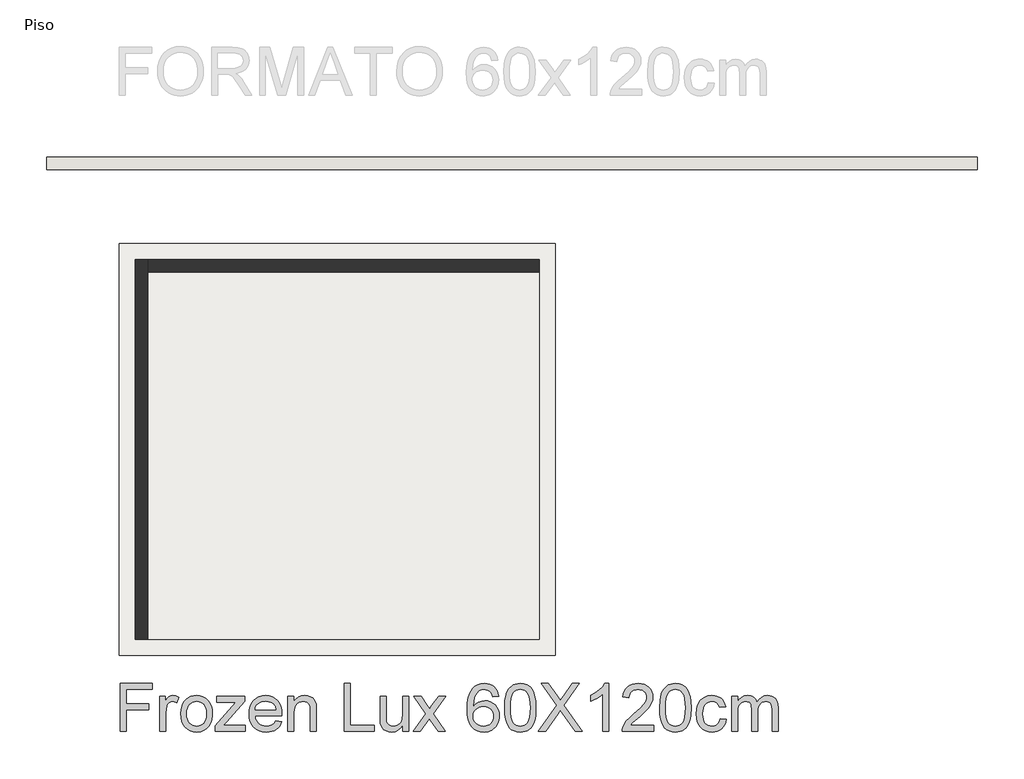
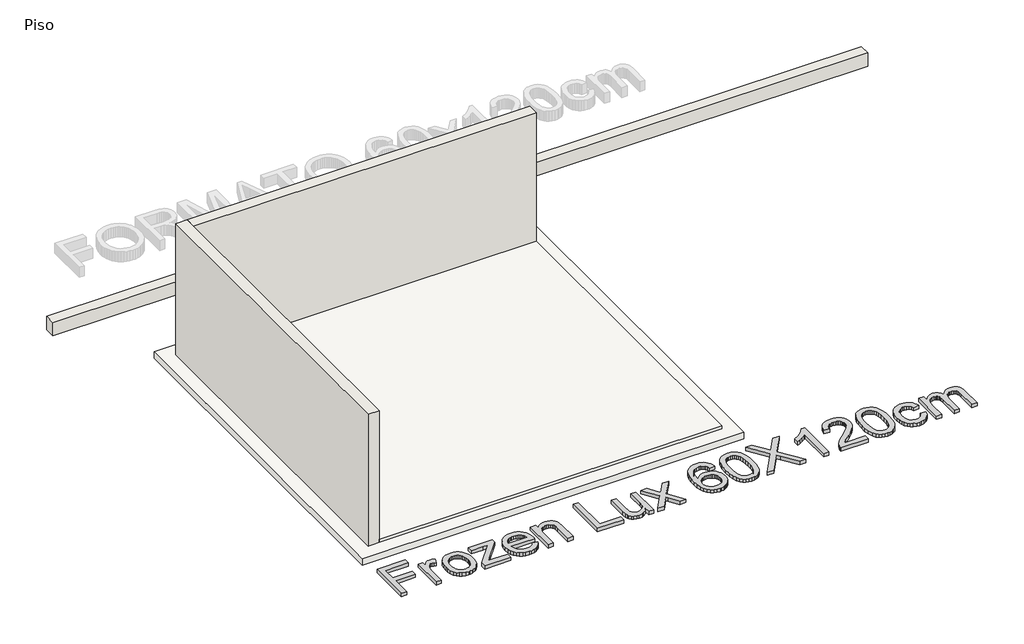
# One storey, part 1 of 2: 3 walls, 2 slabs, 1 proxy.
"""IFC4 building model written with IfcOpenShell, lengths in millimetres."""

from ifc_helpers import new_model, si_unit, frame, origin, origin_with_axes, place, context, project, spatial, polyline, outline, extrude, faceted_brep, element, save

model = new_model("IFC4")

# Units and contexts
model_context = context("Model", 3, world=origin())
ifc_project = project(units=[si_unit("LENGTHUNIT", "METRE", prefix="MILLI")], contexts=[model_context])

# Site, building, storey
site = spatial("IfcSite", under=ifc_project)
building = spatial("IfcBuilding", under=site)
storey = spatial("IfcBuildingStorey", under=building, Name="Piso", Elevation=0.0)

# Proxy
placement = place(None, origin())
element("IfcBuildingElementProxy", 1, Name="600mm Arial", ObjectType="600mm Arial", at=placement, inside=storey, context=model_context, shape_type="SweptSolid", body=[
    extrude(outline(polyline([(92611.4475721, -5298.6050591), (92611.4475721, -4695.8671982), (93016.4120724, -4695.8671982), (93016.4120724, -4771.2094308), (92686.7898047, -4771.2094308), (92686.7898047, -4950.1472332), (92969.323177, -4950.1472332), (92969.323177, -5025.4894658), (92686.7898047, -5025.4894658), (92686.7898047, -5298.6050591), (92611.4475721, -5298.6050591)])), origin_with_axes(), (0.0, 0.0, 1.0), 50.0),
    extrude(outline(polyline([(93110.5898631, -5298.6050591), (93110.5898631, -4855.9694425), (93176.5143167, -4855.9694425), (93176.5143167, -4921.4524376), (93200.8681048, -4883.4870157), (93223.3089065, -4861.1197904), (93245.8232846, -4850.1936951), (93270.3978019, -4846.5516634), (93307.9217654, -4852.3641989), (93346.0343401, -4869.8018055), (93320.8712116, -4937.3449398), (93294.3837079, -4925.756657), (93267.8962043, -4921.893896), (93245.4002203, -4925.6095042), (93225.2954692, -4936.7563286), (93209.0534792, -4954.4882408), (93198.145778, -4977.9591121), (93188.9855163, -5020.0448123), (93185.9320958, -5065.9564853), (93185.9320958, -5298.6050591), (93110.5898631, -5298.6050591)])), origin_with_axes(), (0.0, 0.0, 1.0), 50.0),
    extrude(outline(polyline([(93374.2876773, -5077.2872508), (93378.3619704, -5019.9620389), (93390.5848497, -4970.564684), (93410.9563152, -4929.0951861), (93439.4763668, -4895.5535451), (93468.1895566, -4874.1152219), (93499.8825904, -4858.8021338), (93534.5554685, -4849.614281), (93572.2081907, -4846.5516634), (93613.7742576, -4850.2810671), (93651.358002, -4861.4692783), (93684.9594237, -4880.1162969), (93714.5785228, -4906.222123), (93738.7529684, -4938.9038398), (93756.0204296, -4977.2785304), (93766.3809063, -5021.3461949), (93769.8343985, -5071.1068332), (93768.3076882, -5111.435897), (93763.7275574, -5147.221618), (93756.094006, -5178.4639965), (93745.407034, -5205.1630323), (93731.7999987, -5228.2246349), (93715.4062573, -5248.5547136), (93696.2258098, -5266.1532686), (93674.2586562, -5281.0202997), (93650.360122, -5292.8339103), (93625.3855331, -5301.2722035), (93599.3348893, -5306.3351795), (93572.2081907, -5308.0228381), (93530.0351185, -5304.30723), (93492.1018862, -5293.1604055), (93458.408494, -5274.5823648), (93428.9549418, -5248.5731077), (93405.0380136, -5215.5740928), (93387.9544934, -5176.0267783), (93377.7043813, -5129.9311643), (93374.2876773, -5077.2872508)]), holes=[polyline([(93449.6299099, -5077.140098), (93451.8096107, -5113.6845757), (93458.3487132, -5145.3270258), (93469.2472173, -5172.0674483), (93484.505123, -5193.9058432), (93503.0647697, -5210.8698017), (93523.8684965, -5222.986915), (93546.9163035, -5230.2571829), (93572.2081907, -5232.6806055), (93597.3713192, -5230.2433873), (93620.3271557, -5222.9317327), (93641.0757002, -5210.7456416), (93659.6169527, -5193.685114), (93674.8748585, -5171.6305884), (93685.7733626, -5144.4625031), (93692.3124651, -5112.180858), (93694.4921659, -5074.7856532), (93692.2986695, -5039.4000038), (93685.7181803, -5008.5852882), (93674.7506983, -4982.3415063), (93659.3962236, -4960.6686583), (93640.7859931, -4943.7046998), (93620.0512442, -4931.5875866), (93597.1919767, -4924.3173186), (93572.2081907, -4921.893896), (93546.9163035, -4924.3081216), (93523.8684965, -4931.5507984), (93503.0647697, -4943.6219263), (93484.505123, -4960.5215055), (93469.2472173, -4982.2955211), (93458.3487132, -5008.9899584), (93451.8096107, -5040.6048173), (93449.6299099, -5077.140098)])]), origin_with_axes(), (0.0, 0.0, 1.0), 50.0),
    extrude(outline(polyline([(93807.5055148, -5298.6050591), (93807.5055148, -5227.6774104), (94067.524509, -4931.3116751), (93990.5635956, -4931.3116751), (93826.341073, -4931.3116751), (93826.341073, -4855.9694425), (94174.7988988, -4855.9694425), (94174.7988988, -4919.9809096), (93944.2104642, -5182.9429598), (93908.8937927, -5223.2628265), (93996.0082491, -5223.2628265), (94184.2166779, -5223.2628265), (94184.2166779, -5298.6050591), (93807.5055148, -5298.6050591)])), origin_with_axes(), (0.0, 0.0, 1.0), 50.0),
    extrude(outline(polyline([(94569.4627032, -5166.756152), (94643.3334079, -5176.1739311), (94632.0072409, -5205.7608405), (94616.7171455, -5231.8344769), (94597.4631216, -5254.3948403), (94574.2451692, -5273.4419306), (94547.3024115, -5288.5710776), (94516.873972, -5299.3776113), (94482.9598506, -5305.8615314), (94445.5600472, -5308.0228381), (94398.8114427, -5304.2934344), (94357.1580038, -5293.1052232), (94320.5997305, -5274.4582046), (94289.1366229, -5248.3523785), (94263.8355387, -5215.5143119), (94245.7633357, -5176.6705718), (94234.9200139, -5131.821158), (94231.3055733, -5080.9660707), (94234.9568021, -5028.3865366), (94245.9104885, -4982.0426022), (94264.1666325, -4941.9342677), (94289.7252341, -4908.061533), (94321.1055683, -4881.150965), (94356.82691, -4861.9291308), (94396.8892593, -4850.3960302), (94441.2926161, -4846.5516634), (94484.2658317, -4850.3868332), (94523.1279659, -4861.8923426), (94557.8790189, -4881.0681916), (94588.5189906, -4907.9143802), (94613.5303677, -4941.7135385), (94631.3956371, -4981.7482966), (94642.1147987, -5028.0186546), (94645.6878526, -5080.5246123), (94645.2463942, -5100.8316985), (94306.6478059, -5100.8316985), (94311.011806, -5130.8968545), (94319.6892226, -5157.2280083), (94332.6800556, -5179.8251599), (94349.9843049, -5198.6883092), (94370.6454775, -5213.5599388), (94393.70708, -5224.1825314), (94419.1691126, -5230.556087), (94447.0315752, -5232.6806055), (94487.1307127, -5228.7442682), (94520.9022799, -5216.9352561), (94548.3462767, -5196.5178054), (94569.4627032, -5166.756152)]), holes=[polyline([(94306.6478059, -5025.4894658), (94570.34562, -5025.4894658), (94560.1552887, -4985.684634), (94551.3905002, -4970.0312551), (94540.1792964, -4957.2105675), (94519.633087, -4941.7595237), (94496.2541862, -4930.7230639), (94470.042594, -4924.101188), (94440.9983105, -4921.893896), (94414.5062083, -4923.6551311), (94390.2122011, -4928.9388362), (94368.1162887, -4937.7450115), (94348.2184713, -4950.0736568), (94331.5212273, -4965.3545552), (94319.027035, -4983.0174895), (94310.7358945, -5003.0624597), (94306.6478059, -5025.4894658)])]), origin_with_axes(), (0.0, 0.0, 1.0), 50.0),
    extrude(outline(polyline([(94721.0300852, -5298.6050591), (94721.0300852, -4855.9694425), (94796.3723178, -4855.9694425), (94796.3723178, -4917.7736177), (94822.5471218, -4886.6140127), (94853.9826383, -4864.357152), (94890.6788673, -4851.0030355), (94932.6358089, -4846.5516634), (94969.7734963, -4850.1385128), (95003.7841867, -4860.8990612), (95032.1478886, -4877.4905392), (95052.3446101, -4898.5701775), (95066.0482144, -4924.0827939), (95074.9325646, -4953.973206), (95078.9056901, -5026.813841), (95078.9056901, -5298.6050591), (95003.5634575, -5298.6050591), (95003.5634575, -5036.9673841), (95001.3929538, -4998.0086808), (94994.8814424, -4970.3071666), (94982.8700953, -4950.4599329), (94964.200084, -4935.0640714), (94940.2693603, -4925.1864399), (94912.4758755, -4921.893896), (94889.5982139, -4923.742503), (94868.3484302, -4929.2883241), (94848.7265243, -4938.5313592), (94830.7324962, -4951.4716084), (94815.6999182, -4969.5805996), (94804.9623624, -4994.3298609), (94798.519829, -5025.7193921), (94796.3723178, -5063.7491933), (94796.3723178, -5298.6050591), (94721.0300852, -5298.6050591)])), origin_with_axes(), (0.0, 0.0, 1.0), 50.0),
    extrude(outline(polyline([(95427.363516, -5298.6050591), (95427.363516, -4695.8671982), (95502.7057486, -4695.8671982), (95502.7057486, -5223.2628265), (95804.074679, -5223.2628265), (95804.074679, -5298.6050591), (95427.363516, -5298.6050591)])), origin_with_axes(), (0.0, 0.0, 1.0), 50.0),
    extrude(outline(polyline([(96161.9502839, -5298.6050591), (96161.9502839, -5222.5270625), (96134.6902281, -5259.9314643), (96102.9420119, -5286.6488942), (96066.7056354, -5302.6793522), (96025.9810985, -5308.0228381), (95989.2848695, -5304.2704418), (95955.1270263, -5293.0132527), (95926.4690188, -5276.090681), (95906.2722973, -5255.3421364), (95892.6790576, -5230.1422198), (95883.8314956, -5199.8655316), (95879.4169116, -5129.8207997), (95879.4169116, -4855.9694425), (95954.7591443, -4855.9694425), (95954.7591443, -5094.3569753), (95955.8995784, -5142.0344819), (95959.320881, -5171.1707359), (95970.3021586, -5196.7937169), (95989.1193226, -5216.2730685), (96014.5215744, -5228.5787213), (96045.2581151, -5232.6806055), (96077.7604893, -5228.4867508), (96108.1659362, -5215.9051865), (96133.2370942, -5196.0947411), (96149.7366017, -5170.2142427), (96158.8968634, -5134.7688125), (96161.9502839, -5086.2635714), (96161.9502839, -4855.9694425), (96237.2925166, -4855.9694425), (96237.2925166, -5298.6050591), (96161.9502839, -5298.6050591)])), origin_with_axes(), (0.0, 0.0, 1.0), 50.0),
    extrude(outline(polyline([(96293.799191, -5298.6050591), (96454.7843521, -5076.1100284), (96303.2169701, -4855.9694425), (96393.8630937, -4855.9694425), (96466.9980343, -4961.9194571), (96501.1374835, -5011.9514084), (96530.7151959, -4971.0429306), (96614.0036796, -4855.9694425), (96704.6498032, -4855.9694425), (96545.4304757, -5076.1100284), (96698.7636913, -5298.6050591), (96608.1175677, -5298.6050591), (96515.8527633, -5164.8431656), (96498.9301915, -5140.4158011), (96384.4453146, -5298.6050591), (96293.799191, -5298.6050591)])), origin_with_axes(), (0.0, 0.0, 1.0), 50.0),
    extrude(outline(polyline([(97367.4260057, -4855.9694425), (97292.0837731, -4865.3872215), (97279.9436673, -4828.047199), (97263.5361303, -4802.5529768), (97247.3401255, -4788.8401754), (97229.3598929, -4779.0453173), (97209.5954328, -4773.1684024), (97188.0467449, -4771.2094308), (97153.0243789, -4775.7711675), (97120.0621522, -4789.4563777), (97091.7536327, -4818.2799321), (97068.6322493, -4857.9560052), (97059.5961477, -4883.261688), (97053.0156586, -4914.0764036), (97047.2215171, -4992.2329335), (97077.443023, -4956.9714442), (97113.6610055, -4932.1210155), (97153.8521134, -4917.3873416), (97195.992996, -4912.4761169), (97232.1925843, -4915.8330401), (97265.5962695, -4925.9038098), (97296.2040515, -4942.6884258), (97324.0159303, -4966.1868882), (97347.1281167, -4995.0012455), (97363.6368212, -5027.733546), (97373.5420439, -5064.3837898), (97376.8437848, -5104.9519768), (97375.2894834, -5132.4189663), (97370.6265791, -5158.9018714), (97362.8550719, -5184.4006922), (97351.9749619, -5208.9154286), (97338.3725252, -5231.5309743), (97322.4340377, -5251.3322227), (97304.1594996, -5268.3191738), (97283.5489108, -5282.4918277), (97261.0437298, -5293.6616448), (97237.0854148, -5301.6400855), (97211.673966, -5306.42715), (97184.8093833, -5308.0228381), (97139.8955902, -5303.7921952), (97099.3320018, -5291.1002664), (97063.1186179, -5269.9470516), (97031.2554385, -5240.332551), (97005.2783712, -5201.0059657), (96986.723323, -5150.716497), (96975.5902941, -5089.4641448), (96971.8792845, -5017.2489092), (96975.9995629, -4936.2872791), (96988.3603979, -4867.1898433), (97008.9617896, -4809.9566019), (97022.3526943, -4785.7890541), (97037.8037381, -4764.5875549), (97069.0645106, -4734.5223988), (97105.3100842, -4713.0472873), (97146.5404588, -4700.1622205), (97192.7556344, -4695.8671982), (97227.4561036, -4698.5251456), (97258.864029, -4706.4989878), (97286.9794104, -4719.7887249), (97311.8022481, -4738.3943568), (97332.6611572, -4761.6904842), (97348.8847532, -4789.0517075), (97360.473036, -4820.478027), (97367.4260057, -4855.9694425)]), holes=[polyline([(97047.2215171, -5103.7747544), (97051.5809188, -5137.1600455), (97064.6591237, -5169.0370204), (97084.9662098, -5196.444229), (97111.0122551, -5216.4202213), (97142.4477716, -5228.6155095), (97178.9232714, -5232.6806055), (97205.1118709, -5230.5744811), (97228.6425231, -5224.2561078), (97249.5152278, -5213.7254857), (97267.729985, -5198.9826148), (97282.5050457, -5180.6253032), (97293.0586604, -5159.2513593), (97299.3908293, -5134.860783), (97301.5015522, -5107.4535744), (97299.4184204, -5081.117822), (97293.169025, -5057.7343227), (97282.753366, -5037.3030764), (97268.1714434, -5019.8240831), (97249.9015039, -5005.8215747), (97228.4217939, -4995.8197829), (97203.7323135, -4989.8187079), (97175.8330626, -4987.8183495), (97149.993951, -4989.8187079), (97126.1873874, -4995.8197829), (97104.4133718, -5005.8215747), (97084.6719042, -5019.8240831), (97068.2873599, -5037.0731502), (97056.5841139, -5056.8146177), (97049.5621663, -5079.0484858), (97047.2215171, -5103.7747544)])]), origin_with_axes(), (0.0, 0.0, 1.0), 50.0),
    extrude(outline(polyline([(97442.7682383, -5002.092171), (97448.3048624, -4905.6151177), (97455.2256424, -4864.7020413), (97464.9147345, -4828.6725984), (97477.3307518, -4797.2324834), (97492.4323077, -4770.0873907), (97510.2194022, -4747.2373203), (97530.6920352, -4728.6822721), (97553.9191847, -4714.3256773), (97579.9698285, -4704.0709667), (97608.8439665, -4697.9181403), (97640.541599, -4695.8671982), (97686.9683067, -4700.7232405), (97728.5389722, -4715.2913675), (97763.3038207, -4739.0013621), (97789.3130778, -4771.2830072), (97808.9579763, -4811.8603912), (97824.6297493, -4860.4576028), (97834.893657, -4922.1698075), (97838.3149596, -5002.092171), (97832.8335178, -5098.0174012), (97825.9817157, -5138.7925218), (97816.3891927, -5174.7759795), (97804.0697443, -5206.2298901), (97789.0371663, -5233.4163695), (97771.2914586, -5256.3354178), (97750.8326211, -5274.987035), (97727.5778805, -5289.4401989), (97701.4444633, -5299.7638873), (97672.4323694, -5305.9581004), (97640.541599, -5308.0228381), (97599.0445099, -5304.4359887), (97562.2563104, -5293.6754403), (97530.1770004, -5275.7411931), (97502.80658, -5250.6332469), (97476.5398055, -5205.2458057), (97457.7778238, -5148.693146), (97446.5206347, -5080.9752678), (97442.7682383, -5002.092171)]), holes=[polyline([(97518.110471, -5001.9450182), (97520.3177629, -5067.4418089), (97526.9396388, -5120.4582029), (97537.9760987, -5160.9942002), (97553.4271425, -5189.0498009), (97572.1155479, -5208.1382779), (97592.8640924, -5221.7729044), (97615.6727761, -5229.9536802), (97640.541599, -5232.6806055), (97665.4104218, -5229.9444832), (97688.2191055, -5221.7361162), (97708.9676501, -5208.0555045), (97727.6560554, -5188.9026481), (97743.1070992, -5160.8010622), (97754.1435591, -5120.2742619), (97760.765435, -5067.3222472), (97762.972727, -5001.9450182), (97760.8390114, -4938.1818713), (97754.4378647, -4886.0989779), (97743.7692868, -4845.6963378), (97728.8332778, -4816.973951), (97710.4575721, -4796.9519734), (97689.4699043, -4782.6505608), (97665.8702743, -4774.0697133), (97639.6586822, -4771.2094308), (97614.918618, -4773.7294224), (97592.4962104, -4781.2893974), (97572.3914594, -4793.8893558), (97554.6043649, -4811.5292975), (97538.6382863, -4842.799267), (97527.2339444, -4884.9585437), (97520.3913393, -4938.0071274), (97518.110471, -5001.9450182)])]), origin_with_axes(), (0.0, 0.0, 1.0), 50.0),
    extrude(outline(polyline([(97866.5682968, -5298.6050591), (98098.9225649, -4970.1600138), (97904.2394131, -4695.8671982), (97994.5912311, -4695.8671982), (98104.2200657, -4850.2304833), (98130.3764755, -4889.3363394), (98141.155418, -4910.4159778), (98184.4183406, -4849.2004138), (98292.8699528, -4695.8671982), (98384.546146, -4695.8671982), (98189.8629942, -4971.0429306), (98422.2172623, -5298.6050591), (98331.8654443, -5298.6050591), (98177.0607007, -5080.2303067), (98144.8342379, -5034.9072449), (98109.3704136, -5084.6448907), (97958.24449, -5298.6050591), (97866.5682968, -5298.6050591)])), origin_with_axes(), (0.0, 0.0, 1.0), 50.0),
    extrude(outline(polyline([(98751.83953, -5298.6050591), (98676.4972974, -5298.6050591), (98676.4972974, -4828.8933276), (98645.0433868, -4854.3323676), (98605.1281903, -4879.7346194), (98563.2264311, -4901.9362978), (98525.8128322, -4917.7736177), (98525.8128322, -4846.5516634), (98584.9866511, -4814.3619888), (98636.2510071, -4776.0654731), (98676.6628443, -4735.3409362), (98703.2791066, -4695.8671982), (98751.83953, -4695.8671982), (98751.83953, -5298.6050591)])), origin_with_axes(), (0.0, 0.0, 1.0), 50.0),
    extrude(outline(polyline([(99316.9062746, -5223.2628265), (99316.9062746, -5298.6050591), (98921.3595534, -5298.6050591), (98923.0150223, -5272.0807672), (98929.4529573, -5246.6601213), (98948.030998, -5206.0643432), (98975.2174775, -5166.6825756), (99014.5440627, -5125.461398), (99069.542421, -5079.3473899), (99150.844342, -5007.1321543), (99199.6254945, -4953.8260532), (99213.8533307, -4932.0474391), (99224.0160708, -4910.5631306), (99230.1137149, -4889.3731276), (99232.1462629, -4868.4774303), (99230.228678, -4848.8187362), (99224.4759233, -4830.7511317), (99214.8879988, -4814.2746168), (99201.4649045, -4799.3891916), (99184.9516014, -4787.0605462), (99166.0930507, -4778.254371), (99144.8892522, -4772.9706658), (99121.3402059, -4771.2094308), (99096.5311639, -4772.9292791), (99074.3432811, -4778.0888241), (99054.7765574, -4786.6880657), (99037.830993, -4798.727004), (99024.1227902, -4813.8009688), (99014.2681512, -4831.5052898), (99008.2670762, -4851.8399671), (99006.1195651, -4874.8050006), (98930.7773324, -4865.3872215), (98937.2566541, -4826.4928976), (98949.0426735, -4792.5097983), (98966.1353907, -4763.4379236), (98988.5348057, -4739.2772736), (99015.7258837, -4720.2853656), (99047.1935898, -4706.719717), (99082.9379242, -4698.5803279), (99122.9588867, -4695.8671982), (99163.3385342, -4698.8838305), (99199.2760066, -4707.9337276), (99230.7713039, -4723.0168894), (99257.8244262, -4744.1333159), (99279.5524565, -4769.7195087), (99295.0724782, -4798.2119692), (99304.3844912, -4829.6106975), (99307.4884955, -4863.9156936), (99304.1407693, -4899.949735), (99294.0975909, -4935.358377), (99276.2737082, -4971.3740244), (99249.5838695, -5009.2290817), (99207.0383167, -5054.4233848), (99141.6472921, -5112.4567695), (99054.974294, -5184.9295226), (99020.9819977, -5223.2628265), (99316.9062746, -5223.2628265)])), origin_with_axes(), (0.0, 0.0, 1.0), 50.0),
    extrude(outline(polyline([(99392.2485072, -5002.092171), (99397.7851312, -4905.6151177), (99404.7059113, -4864.7020413), (99414.3950033, -4828.6725984), (99426.8110206, -4797.2324834), (99441.9125765, -4770.0873907), (99459.699671, -4747.2373203), (99480.172304, -4728.6822721), (99503.3994535, -4714.3256773), (99529.4500973, -4704.0709667), (99558.3242354, -4697.9181403), (99590.0218678, -4695.8671982), (99636.4485756, -4700.7232405), (99678.019241, -4715.2913675), (99712.7840896, -4739.0013621), (99738.7933466, -4771.2830072), (99758.4382452, -4811.8603912), (99774.1100182, -4860.4576028), (99784.3739258, -4922.1698075), (99787.7952284, -5002.092171), (99782.3137867, -5098.0174012), (99775.4619845, -5138.7925218), (99765.8694615, -5174.7759795), (99753.5500132, -5206.2298901), (99738.5174352, -5233.4163695), (99720.7717274, -5256.3354178), (99700.31289, -5274.987035), (99677.0581493, -5289.4401989), (99650.9247321, -5299.7638873), (99621.9126383, -5305.9581004), (99590.0218678, -5308.0228381), (99548.5247787, -5304.4359887), (99511.7365792, -5293.6754403), (99479.6572692, -5275.7411931), (99452.2868488, -5250.6332469), (99426.0200743, -5205.2458057), (99407.2580926, -5148.693146), (99396.0009035, -5080.9752678), (99392.2485072, -5002.092171)]), holes=[polyline([(99467.5907398, -5001.9450182), (99469.7980318, -5067.4418089), (99476.4199077, -5120.4582029), (99487.4563675, -5160.9942002), (99502.9074113, -5189.0498009), (99521.5958167, -5208.1382779), (99542.3443612, -5221.7729044), (99565.1530449, -5229.9536802), (99590.0218678, -5232.6806055), (99614.8906907, -5229.9444832), (99637.6993744, -5221.7361162), (99658.4479189, -5208.0555045), (99677.1363243, -5188.9026481), (99692.5873681, -5160.8010622), (99703.6238279, -5120.2742619), (99710.2457038, -5067.3222472), (99712.4529958, -5001.9450182), (99710.3192802, -4938.1818713), (99703.9181335, -4886.0989779), (99693.2495556, -4845.6963378), (99678.3135466, -4816.973951), (99659.937841, -4796.9519734), (99638.9501732, -4782.6505608), (99615.3505432, -4774.0697133), (99589.138951, -4771.2094308), (99564.3988868, -4773.7294224), (99541.9764792, -4781.2893974), (99521.8717282, -4793.8893558), (99504.0846337, -4811.5292975), (99488.1185551, -4842.799267), (99476.7142133, -4884.9585437), (99469.8716082, -4938.0071274), (99467.5907398, -5001.9450182)])]), origin_with_axes(), (0.0, 0.0, 1.0), 50.0),
    extrude(outline(polyline([(100155.0886124, -5138.5028148), (100230.430845, -5147.9205938), (100222.2362736, -5183.4717901), (100209.4247831, -5214.9302993), (100191.9963736, -5242.2961212), (100169.951045, -5265.5692559), (100144.2176994, -5284.1426981), (100115.7252389, -5297.4094426), (100084.4736634, -5305.3694893), (100050.462973, -5308.0228381), (100008.2071273, -5304.3210256), (99970.3198803, -5293.2155878), (99936.801232, -5274.706525), (99907.6511824, -5248.7938369), (99884.056151, -5215.9649674), (99867.2025571, -5176.70736), (99857.0904007, -5131.0210147), (99853.7196819, -5078.9059315), (99859.4770352, -5011.8594379), (99866.6737267, -4981.6885158), (99876.7490948, -4953.7524768), (99889.7721175, -4928.6123409), (99905.8117725, -4906.8291283), (99924.8680598, -4888.4028389), (99946.9409795, -4873.3334726), (99971.0326517, -4861.6164311), (99996.1451964, -4853.2471157), (100022.2786136, -4848.2255265), (100049.4329034, -4846.5516634), (100082.8595812, -4848.8509259), (100113.0948826, -4855.7487133), (100140.1388078, -4867.2450256), (100163.9913567, -4883.3398629), (100184.247859, -4903.6653431), (100200.5036447, -4927.8535843), (100212.7587137, -4955.9045865), (100221.0130659, -4987.8183495), (100145.6708333, -4997.2361286), (100132.0040172, -4964.3658723), (100110.7220438, -4940.8030306), (100083.0021354, -4926.6211796), (100050.0215146, -4921.893896), (100024.4215262, -4924.2207496), (100001.3323325, -4931.2013105), (99980.7539334, -4942.8355786), (99962.6863289, -4959.1235539), (99947.9756476, -4980.4423155), (99937.4680181, -5007.1689425), (99931.1634404, -5039.3034348), (99929.0619146, -5076.8457924), (99931.1174552, -5114.9537685), (99937.2840771, -5147.4607413), (99947.5617804, -5174.3667108), (99961.9505649, -5195.6716768), (99979.6594845, -5211.8630831), (99999.8975927, -5223.4283734), (100022.6648897, -5230.3675475), (100047.9613754, -5232.6806055), (100086.975261, -5226.9048582), (100103.847249, -5219.685174), (100118.9626005, -5209.5776162), (100131.8982511, -5196.4718202), (100142.2311367, -5180.2574212), (100149.9612571, -5160.9344194), (100155.0886124, -5138.5028148)])), origin_with_axes(), (0.0, 0.0, 1.0), 50.0),
    extrude(outline(polyline([(100296.3552985, -5298.6050591), (100296.3552985, -4855.9694425), (100371.6975311, -4855.9694425), (100371.6975311, -4928.8100775), (100394.3590621, -4895.3512101), (100423.4953161, -4869.1396179), (100458.1130118, -4852.198652), (100497.2188679, -4846.5516634), (100539.1206272, -4852.3090166), (100556.9537069, -4859.5057081), (100572.7082533, -4869.5810763), (100597.7978054, -4897.2274082), (100614.2053424, -4934.1075782), (100641.6677333, -4895.8018655), (100672.9928852, -4868.4406421), (100708.180798, -4852.0239081), (100747.2314718, -4846.5516634), (100777.3931969, -4848.8279332), (100803.866905, -4855.6567428), (100826.6525961, -4867.038092), (100845.7502701, -4882.9719809), (100860.8472275, -4903.6423505), (100871.6307685, -4929.2331418), (100878.1008931, -4959.7443548), (100880.2576013, -4995.1759894), (100880.2576013, -5298.6050591), (100804.9153687, -5298.6050591), (100804.9153687, -5027.549605), (100803.1679292, -4989.9704592), (100797.9256108, -4964.6417838), (100788.1031615, -4947.2961478), (100772.6153295, -4933.6661198), (100752.6945195, -4924.836952), (100729.5731361, -4921.893896), (100708.2221848, -4923.7792912), (100688.7566287, -4929.4354769), (100671.1764678, -4938.862453), (100655.4817022, -4952.0602196), (100642.5736427, -4969.4150527), (100633.3536002, -4991.3132285), (100627.8215747, -5017.7547469), (100625.9775662, -5048.7396079), (100625.9775662, -5298.6050591), (100550.6353336, -5298.6050591), (100550.6353336, -5019.1618955), (100546.275932, -4976.5611605), (100540.8266799, -4959.8409238), (100533.197727, -4946.1741077), (100523.0855707, -4935.5515151), (100510.1867082, -4927.9639489), (100494.5011397, -4923.4114092), (100476.028865, -4921.893896), (100447.0029756, -4925.940598), (100420.2579545, -4938.0807038), (100398.1850348, -4958.0199079), (100383.1754494, -4985.4639048), (100374.5670107, -5023.5396913), (100371.6975311, -5075.3742644), (100371.6975311, -5298.6050591), (100296.3552985, -5298.6050591)])), origin_with_axes(), (0.0, 0.0, 1.0), 50.0),
])

# Slabs
element("IfcSlab", 2, ObjectType="5cm - Porcelanato Frozen Lux  - Polido 60x120", at=placement, inside=storey, context=model_context, shape_type="SweptSolid", body=[
    extrude(outline(polyline([(97881.137799, 477.5285722), (97881.137799, -4143.0714278), (92960.537799, -4143.0714278), (92960.537799, 477.5285722), (97881.137799, 477.5285722)])), origin_with_axes(), (0.0, 0.0, 1.0), 50.0),
])
element("IfcSlab", 3, ObjectType="CO02 - Concreto Estrutural Simples", at=placement, inside=storey, context=model_context, shape_type="SweptSolid", body=[
    extrude(outline(polyline([(98081.137799, 836.3285722), (98081.137799, -4343.0714278), (92601.737799, -4343.0714278), (92601.737799, 836.3285722), (98081.137799, 836.3285722)])), frame((0.0, 0.0, -100.0), z_axis=(0.0, 0.0, 1.0), x_axis=(1.0, 0.0, 0.0)), (0.0, 0.0, 1.0), 100.0),
])

# Walls
element("IfcWall", 4, ObjectType="CO01 - Bloco de Concreto 14cm / Pintura Branca Simples", at=placement, inside=storey, context=model_context, shape_type="SweptSolid", body=[
    extrude(outline(polyline([(103386.699165, 1765.7486968), (91686.699165, 1765.7486968), (91686.699165, 1924.5486968), (103386.699165, 1924.5486968), (103386.699165, 1765.7486968)])), origin_with_axes(), (0.0, 0.0, 1.0), 200.0),
])
element("IfcWall", 5, ObjectType="CO01 - Bloco de Concreto 14cm / Pintura Branca Simples", at=placement, inside=storey, context=model_context, shape_type="Brep", body=[
    faceted_brep([(92960.537799, -4143.0714278, 0.0), (92960.537799, 477.5285722, 0.0), (92960.537799, 636.3285722, 0.0), (92960.537799, 636.3285722, 2000.0), (92960.537799, 477.5285722, 2000.0), (92960.537799, -4143.0714278, 2000.0), (92801.737799, -4143.0714278, 0.0), (92801.737799, -4143.0714278, 2000.0), (92801.737799, 636.3285722, 2000.0), (92801.737799, 636.3285722, 0.0)], [[[0, 1, 2, 3, 4, 5]], [[6, 7, 8, 9]], [[2, 1, 0, 6, 9]], [[5, 4, 3, 8, 7]], [[0, 5, 7, 6]], [[3, 2, 9, 8]]]),
])
element("IfcWall", 6, ObjectType="CO01 - Bloco de Concreto 14cm / Pintura Branca Simples", at=placement, inside=storey, context=model_context, shape_type="SweptSolid", body=[
    extrude(outline(polyline([(97881.137799, 477.5285722), (92960.537799, 477.5285722), (92960.537799, 636.3285722), (97881.137799, 636.3285722), (97881.137799, 477.5285722)])), origin_with_axes(), (0.0, 0.0, 1.0), 2000.0),
])

save(model, "model.ifc")
